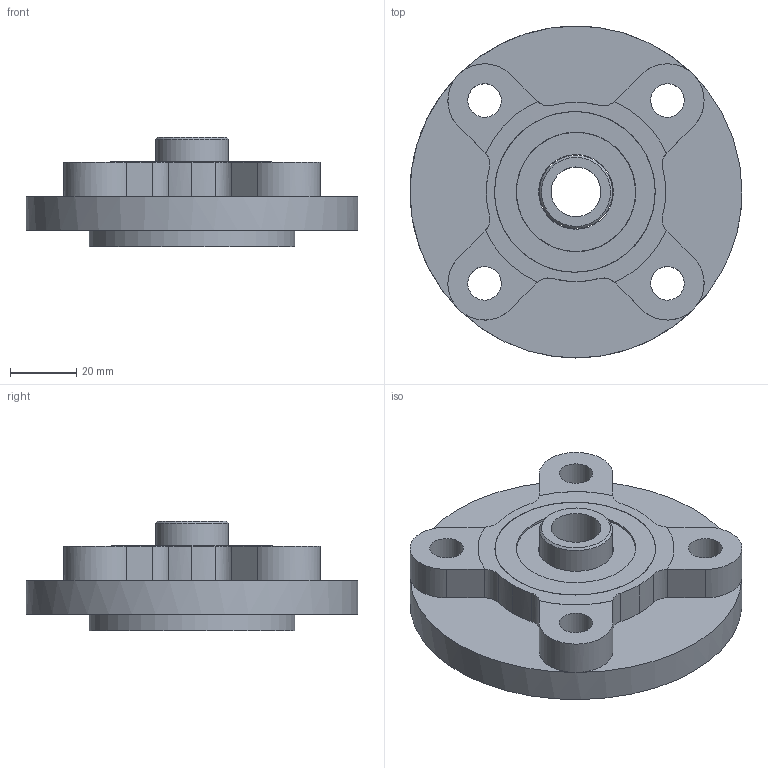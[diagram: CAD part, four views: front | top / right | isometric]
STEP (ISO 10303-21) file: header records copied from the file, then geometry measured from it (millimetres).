
FILE_DESCRIPTION ((), '1');
FILE_NAME ('G:\Energy Science\CAD Projects\Generator Research\TeslaGen_v1\Bearings-UCFC202D1\UCFC202D1.stp', '2016-01-06T06:06:14', ('Unknown'), ('Unknown'), 'HarmonyWare STEP v1.7.11', 'HarmonyWare Translators', '');
FILE_SCHEMA (('CONFIG_CONTROL_DESIGN'));
Length unit declared in the file: millimetre
Products named in the file (3): product-name
Bounding box: 100 x 100 x 33 mm (x, y, z)
Volume: 117310.7 mm3; surface area: 35489.2 mm2
Topology: 3 solids, 3 shells, 66 faces, 185 edges, 127 vertices
Faces by surface type: bspline 66
Entity records: 6566 total; most frequent: CARTESIAN_POINT 5214, ORIENTED_EDGE 370, EDGE_CURVE 185, VERTEX_POINT 127, B_SPLINE_CURVE_WITH_KNOTS 113, EDGE_LOOP 82, FACE_OUTER_BOUND 66, ADVANCED_FACE 66
